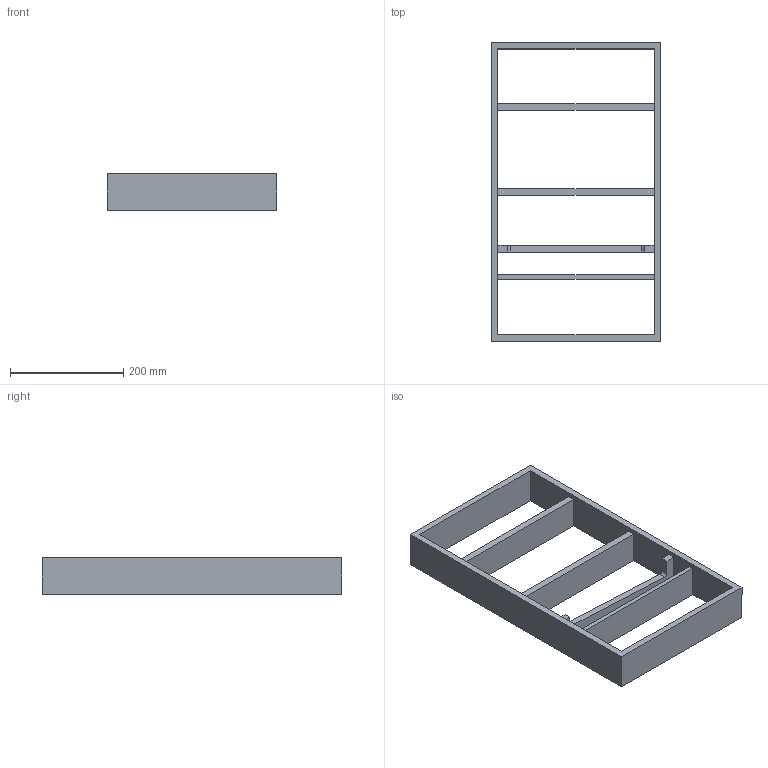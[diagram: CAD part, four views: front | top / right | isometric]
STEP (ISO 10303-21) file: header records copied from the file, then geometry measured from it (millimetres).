
FILE_DESCRIPTION (( 'STEP AP214' ), '1' );
FILE_NAME ('Vario Messer_Modul_H65_NL550_B300_ZE_Alu_Buche.step', '2010-10-07T06:11:54', ( 'grass' ), ( '' ), 'SwSTEP 2.0', 'SolidWorks 2010', '' );
FILE_SCHEMA (( 'AUTOMOTIVE_DESIGN' ));
Length unit declared in the file: millimetre
Products named in the file (1): Vario Messer_Modul_H65_NL550_B300_ZE_Alu_Buche
Bounding box: 300 x 529 x 65 mm (x, y, z)
Volume: 1872633.5 mm3; surface area: 381081.4 mm2
Topology: 1 solids, 1 shells, 28 faces, 90 edges, 60 vertices
Faces by surface type: plane 26, cylinder 2
Entity records: 1032 total; most frequent: ORIENTED_EDGE 180, CARTESIAN_POINT 179, DIRECTION 152, EDGE_CURVE 90, VECTOR 86, LINE 86, VERTEX_POINT 60, EDGE_LOOP 34
